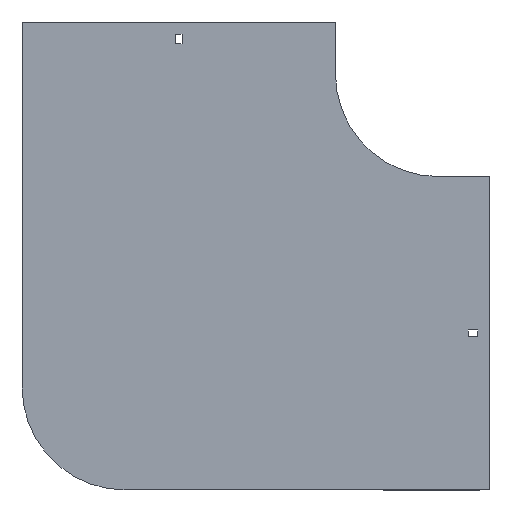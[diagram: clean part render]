
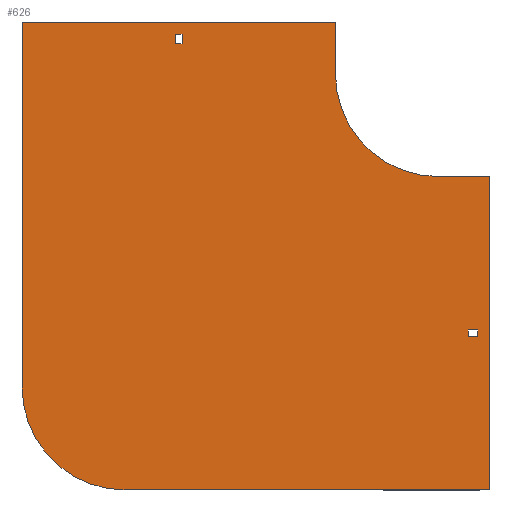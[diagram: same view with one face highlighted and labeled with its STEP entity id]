
A CAD part, front view. The second image highlights one B-rep face of the part: STEP entity #626.
In plain terms, the highlighted planar face has unit normal (0, -1, 0).
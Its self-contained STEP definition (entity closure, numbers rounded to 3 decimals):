
#3 = CARTESIAN_POINT ( 'NONE',  ( 29., 0., -248.75 ) ) ;
#4 = VECTOR ( 'NONE', #1892, 1000. ) ;
#23 = CARTESIAN_POINT ( 'NONE',  ( -248.75, 0., 38. ) ) ;
#43 = LINE ( 'NONE', #1672, #350 ) ;
#62 = DIRECTION ( 'NONE',  ( 1., 0., 0. ) ) ;
#94 = DIRECTION ( 'NONE',  ( 0., 0., -1. ) ) ;
#98 = LINE ( 'NONE', #710, #662 ) ;
#139 = EDGE_CURVE ( 'NONE', #1084, #303, #1889, .T. ) ;
#147 = CARTESIAN_POINT ( 'NONE',  ( -255.25, 0., 29. ) ) ;
#149 = ORIENTED_EDGE ( 'NONE', *, *, #325, .F. ) ;
#166 = VECTOR ( 'NONE', #94, 1000. ) ;
#182 = VECTOR ( 'NONE', #62, 1000. ) ;
#199 = EDGE_CURVE ( 'NONE', #713, #450, #1916, .T. ) ;
#207 = ORIENTED_EDGE ( 'NONE', *, *, #139, .F. ) ;
#218 = DIRECTION ( 'NONE',  ( -1., 0., 0. ) ) ;
#219 = CARTESIAN_POINT ( 'NONE',  ( -255.25, 0., 29. ) ) ;
#242 = CARTESIAN_POINT ( 'NONE',  ( -248.75, 0., 29. ) ) ;
#264 = CARTESIAN_POINT ( 'NONE',  ( -100., 0., 0. ) ) ;
#285 = ORIENTED_EDGE ( 'NONE', *, *, #1821, .F. ) ;
#303 = VERTEX_POINT ( 'NONE', #1058 ) ;
#305 = CIRCLE ( 'NONE', #1775, 100. ) ;
#316 = CARTESIAN_POINT ( 'NONE',  ( 38., 0., -255.25 ) ) ;
#325 = EDGE_CURVE ( 'NONE', #975, #713, #534, .T. ) ;
#328 = LINE ( 'NONE', #219, #1092 ) ;
#334 = EDGE_CURVE ( 'NONE', #450, #382, #98, .T. ) ;
#350 = VECTOR ( 'NONE', #1534, 1000. ) ;
#351 = DIRECTION ( 'NONE',  ( 1., 0., 0. ) ) ;
#371 = LINE ( 'NONE', #951, #557 ) ;
#373 = VERTEX_POINT ( 'NONE', #1796 ) ;
#382 = VERTEX_POINT ( 'NONE', #1933 ) ;
#424 = LINE ( 'NONE', #1791, #867 ) ;
#434 = DIRECTION ( 'NONE',  ( 0., -1., 0. ) ) ;
#450 = VERTEX_POINT ( 'NONE', #1351 ) ;
#465 = VECTOR ( 'NONE', #351, 1000. ) ;
#480 = PLANE ( 'NONE',  #1769 ) ;
#495 = DIRECTION ( 'NONE',  ( -1., 0., 0. ) ) ;
#507 = EDGE_CURVE ( 'NONE', #1102, #1834, #43, .T. ) ;
#516 = VERTEX_POINT ( 'NONE', #1666 ) ;
#534 = LINE ( 'NONE', #565, #4 ) ;
#537 = ORIENTED_EDGE ( 'NONE', *, *, #1448, .T. ) ;
#540 = LINE ( 'NONE', #1142, #1294 ) ;
#557 = VECTOR ( 'NONE', #218, 1000. ) ;
#565 = CARTESIAN_POINT ( 'NONE',  ( -100., 0., 50. ) ) ;
#592 = ORIENTED_EDGE ( 'NONE', *, *, #1169, .T. ) ;
#618 = ORIENTED_EDGE ( 'NONE', *, *, #199, .F. ) ;
#626 = ADVANCED_FACE ( 'NONE', ( #934, #1831, #1086 ), #480, .T. ) ;
#645 = ORIENTED_EDGE ( 'NONE', *, *, #1338, .F. ) ;
#656 = CARTESIAN_POINT ( 'NONE',  ( 29., 0., -255.25 ) ) ;
#662 = VECTOR ( 'NONE', #848, 1000. ) ;
#665 = EDGE_CURVE ( 'NONE', #382, #516, #697, .T. ) ;
#668 = LINE ( 'NONE', #1436, #182 ) ;
#692 = ORIENTED_EDGE ( 'NONE', *, *, #1309, .F. ) ;
#697 = LINE ( 'NONE', #971, #1485 ) ;
#702 = CARTESIAN_POINT ( 'NONE',  ( 38., 0., -248.75 ) ) ;
#709 = DIRECTION ( 'NONE',  ( 0., 1., 0. ) ) ;
#710 = CARTESIAN_POINT ( 'NONE',  ( 0., 0., -100. ) ) ;
#713 = VERTEX_POINT ( 'NONE', #264 ) ;
#819 = CARTESIAN_POINT ( 'NONE',  ( 38., 0., -255.25 ) ) ;
#843 = DIRECTION ( 'NONE',  ( 1., 0., 0. ) ) ;
#846 = DIRECTION ( 'NONE',  ( 0., 0., -1. ) ) ;
#848 = DIRECTION ( 'NONE',  ( 1., 0., 0. ) ) ;
#859 = VERTEX_POINT ( 'NONE', #1526 ) ;
#867 = VECTOR ( 'NONE', #1779, 1000. ) ;
#934 = FACE_BOUND ( 'NONE', #1528, .T. ) ;
#943 = LINE ( 'NONE', #819, #1096 ) ;
#951 = CARTESIAN_POINT ( 'NONE',  ( 29., 0., -248.75 ) ) ;
#971 = CARTESIAN_POINT ( 'NONE',  ( 50., 0., -100. ) ) ;
#975 = VERTEX_POINT ( 'NONE', #1163 ) ;
#989 = DIRECTION ( 'NONE',  ( 0., 0., 1. ) ) ;
#996 = EDGE_LOOP ( 'NONE', ( #285, #1705, #1868, #1462, #1886, #1734, #618, #149 ) ) ;
#1007 = EDGE_CURVE ( 'NONE', #1332, #373, #540, .T. ) ;
#1010 = DIRECTION ( 'NONE',  ( 0., 0., -1. ) ) ;
#1018 = EDGE_CURVE ( 'NONE', #1907, #859, #1580, .T. ) ;
#1057 = EDGE_CURVE ( 'NONE', #516, #1391, #424, .T. ) ;
#1058 = CARTESIAN_POINT ( 'NONE',  ( 29., 0., -255.25 ) ) ;
#1073 = AXIS2_PLACEMENT_3D ( 'NONE', #1898, #434, #1599 ) ;
#1084 = VERTEX_POINT ( 'NONE', #3 ) ;
#1086 = FACE_BOUND ( 'NONE', #1875, .T. ) ;
#1092 = VECTOR ( 'NONE', #495, 1000. ) ;
#1096 = VECTOR ( 'NONE', #1857, 1000. ) ;
#1102 = VERTEX_POINT ( 'NONE', #147 ) ;
#1119 = CARTESIAN_POINT ( 'NONE',  ( 29., 0., -255.25 ) ) ;
#1142 = CARTESIAN_POINT ( 'NONE',  ( -404., 0., -304. ) ) ;
#1145 = ORIENTED_EDGE ( 'NONE', *, *, #1018, .T. ) ;
#1163 = CARTESIAN_POINT ( 'NONE',  ( -100., 0., 50. ) ) ;
#1169 = EDGE_CURVE ( 'NONE', #859, #1102, #328, .T. ) ;
#1261 = CARTESIAN_POINT ( 'NONE',  ( -255.25, 0., 38. ) ) ;
#1278 = VECTOR ( 'NONE', #843, 1000. ) ;
#1294 = VECTOR ( 'NONE', #989, 1000. ) ;
#1309 = EDGE_CURVE ( 'NONE', #1589, #1084, #371, .T. ) ;
#1332 = VERTEX_POINT ( 'NONE', #1827 ) ;
#1338 = EDGE_CURVE ( 'NONE', #1915, #1589, #943, .T. ) ;
#1351 = CARTESIAN_POINT ( 'NONE',  ( 0., 0., -100. ) ) ;
#1391 = VERTEX_POINT ( 'NONE', #1846 ) ;
#1436 = CARTESIAN_POINT ( 'NONE',  ( -404., 0., 50. ) ) ;
#1448 = EDGE_CURVE ( 'NONE', #1834, #1907, #1695, .T. ) ;
#1451 = CARTESIAN_POINT ( 'NONE',  ( 0., 0., 0. ) ) ;
#1462 = ORIENTED_EDGE ( 'NONE', *, *, #1057, .F. ) ;
#1485 = VECTOR ( 'NONE', #1010, 1000. ) ;
#1526 = CARTESIAN_POINT ( 'NONE',  ( -248.75, 0., 29. ) ) ;
#1528 = EDGE_LOOP ( 'NONE', ( #1863, #537, #1145, #592 ) ) ;
#1534 = DIRECTION ( 'NONE',  ( 0., 0., 1. ) ) ;
#1578 = LINE ( 'NONE', #656, #1278 ) ;
#1580 = LINE ( 'NONE', #242, #1699 ) ;
#1589 = VERTEX_POINT ( 'NONE', #702 ) ;
#1599 = DIRECTION ( 'NONE',  ( 0., 0., -1. ) ) ;
#1614 = CARTESIAN_POINT ( 'NONE',  ( -304., 0., -304. ) ) ;
#1666 = CARTESIAN_POINT ( 'NONE',  ( 50., 0., -404. ) ) ;
#1672 = CARTESIAN_POINT ( 'NONE',  ( -255.25, 0., 29. ) ) ;
#1688 = EDGE_CURVE ( 'NONE', #1391, #1332, #305, .T. ) ;
#1695 = LINE ( 'NONE', #1261, #465 ) ;
#1699 = VECTOR ( 'NONE', #846, 1000. ) ;
#1705 = ORIENTED_EDGE ( 'NONE', *, *, #1007, .F. ) ;
#1734 = ORIENTED_EDGE ( 'NONE', *, *, #334, .F. ) ;
#1742 = DIRECTION ( 'NONE',  ( 0., 0., -1. ) ) ;
#1753 = DIRECTION ( 'NONE',  ( 0., -1., 0. ) ) ;
#1761 = EDGE_CURVE ( 'NONE', #303, #1915, #1578, .T. ) ;
#1765 = DIRECTION ( 'NONE',  ( 0., 0., 1. ) ) ;
#1769 = AXIS2_PLACEMENT_3D ( 'NONE', #1451, #1753, #1742 ) ;
#1775 = AXIS2_PLACEMENT_3D ( 'NONE', #1614, #709, #1765 ) ;
#1779 = DIRECTION ( 'NONE',  ( -1., 0., 0. ) ) ;
#1791 = CARTESIAN_POINT ( 'NONE',  ( 50., 0., -404. ) ) ;
#1796 = CARTESIAN_POINT ( 'NONE',  ( -404., 0., 50. ) ) ;
#1813 = ORIENTED_EDGE ( 'NONE', *, *, #1761, .F. ) ;
#1821 = EDGE_CURVE ( 'NONE', #373, #975, #668, .T. ) ;
#1827 = CARTESIAN_POINT ( 'NONE',  ( -404., 0., -304. ) ) ;
#1831 = FACE_OUTER_BOUND ( 'NONE', #996, .T. ) ;
#1834 = VERTEX_POINT ( 'NONE', #1858 ) ;
#1846 = CARTESIAN_POINT ( 'NONE',  ( -304., 0., -404. ) ) ;
#1857 = DIRECTION ( 'NONE',  ( 0., 0., 1. ) ) ;
#1858 = CARTESIAN_POINT ( 'NONE',  ( -255.25, 0., 38. ) ) ;
#1863 = ORIENTED_EDGE ( 'NONE', *, *, #507, .T. ) ;
#1868 = ORIENTED_EDGE ( 'NONE', *, *, #1688, .F. ) ;
#1875 = EDGE_LOOP ( 'NONE', ( #645, #1813, #207, #692 ) ) ;
#1886 = ORIENTED_EDGE ( 'NONE', *, *, #665, .F. ) ;
#1889 = LINE ( 'NONE', #1119, #166 ) ;
#1892 = DIRECTION ( 'NONE',  ( 0., 0., -1. ) ) ;
#1898 = CARTESIAN_POINT ( 'NONE',  ( 0., 0., 0. ) ) ;
#1907 = VERTEX_POINT ( 'NONE', #23 ) ;
#1915 = VERTEX_POINT ( 'NONE', #316 ) ;
#1916 = CIRCLE ( 'NONE', #1073, 100. ) ;
#1933 = CARTESIAN_POINT ( 'NONE',  ( 50., 0., -100. ) ) ;
